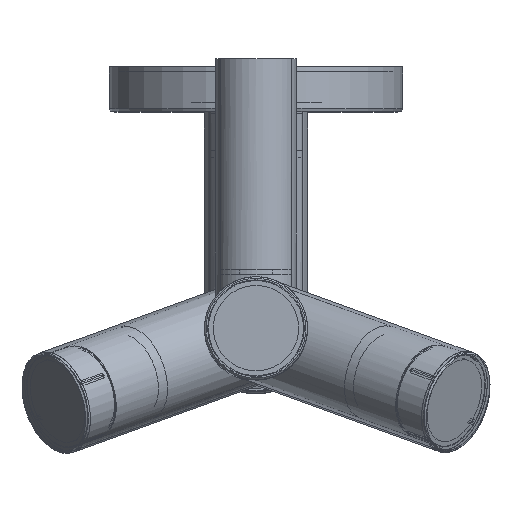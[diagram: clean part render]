
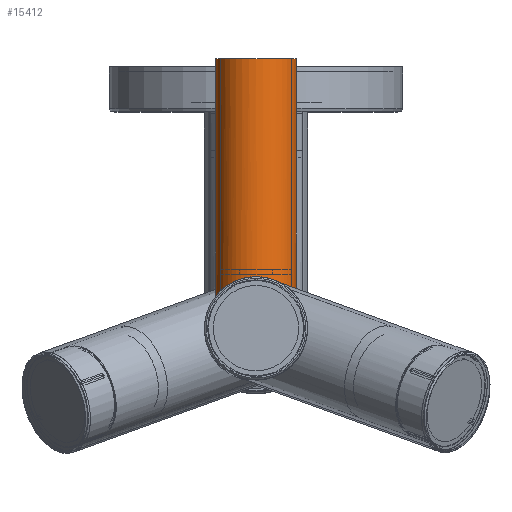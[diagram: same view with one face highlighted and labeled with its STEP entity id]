
A CAD part, top view. The second image highlights one B-rep face of the part: STEP entity #15412.
In plain terms, the highlighted cylindrical face has radius 12.5 mm (diameter 25 mm), a full revolution.
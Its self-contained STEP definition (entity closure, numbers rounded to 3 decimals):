
#1357=CIRCLE('',#16970,12.5);
#7214=ORIENTED_EDGE('',*,*,#9374,.F.);
#7215=ORIENTED_EDGE('',*,*,#9375,.T.);
#7216=ORIENTED_EDGE('',*,*,#9376,.T.);
#9374=EDGE_CURVE('',#10757,#10757,#11290,.T.);
#9375=EDGE_CURVE('',#10758,#10758,#11291,.T.);
#9376=EDGE_CURVE('',#10759,#10759,#1357,.T.);
#10757=VERTEX_POINT('',#28344);
#10758=VERTEX_POINT('',#28374);
#10759=VERTEX_POINT('',#28376);
#11290=B_SPLINE_CURVE_WITH_KNOTS('',3,(#28333,#28334,#28335,#28336,#28337,
#28338,#28339,#28340,#28341,#28342,#28343),.UNSPECIFIED.,.T.,.F.,(1,1,1,
1,1,1,1,1,1,1,1,1,1,1,1),(-0.005,-0.003,-0.002,
0.,0.002,0.003,0.005,
0.006,0.008,0.01,0.011,
0.013,0.015,0.016,0.018),
 .UNSPECIFIED.);
#11291=B_SPLINE_CURVE_WITH_KNOTS('',3,(#28345,#28346,#28347,#28348,#28349,
#28350,#28351,#28352,#28353,#28354,#28355,#28356,#28357,#28358,#28359,#28360,
#28361,#28362,#28363,#28364,#28365,#28366,#28367,#28368,#28369,#28370,#28371,
#28372,#28373),.UNSPECIFIED.,.T.,.F.,(1,1,1,1,1,1,1,1,1,1,1,1,1,1,1,1,1,
1,1,1,1,1,1,1,1,1,1,1,1,1,1,1,1),(-0.008,-0.005,
-0.003,0.,0.003,0.005,0.008,
0.01,0.015,0.018,0.021,
0.026,0.031,0.033,0.036,
0.039,0.041,0.044,0.046,
0.049,0.051,0.057,0.059,
0.062,0.067,0.072,0.075,
0.077,0.08,0.082,0.085,
0.087,0.09),.UNSPECIFIED.);
#12283=EDGE_LOOP('',(#7214));
#12284=EDGE_LOOP('',(#7215));
#12285=EDGE_LOOP('',(#7216));
#13343=FACE_BOUND('',#12283,.T.);
#13344=FACE_BOUND('',#12284,.T.);
#13345=FACE_BOUND('',#12285,.T.);
#13738=CYLINDRICAL_SURFACE('',#16969,12.5);
#15412=ADVANCED_FACE('',(#13343,#13344,#13345),#13738,.T.);
#16969=AXIS2_PLACEMENT_3D('',#28332,#20836,#20837);
#16970=AXIS2_PLACEMENT_3D('',#28375,#20838,#20839);
#20836=DIRECTION('',(-1.,0.,0.));
#20837=DIRECTION('',(0.,0.,1.));
#20838=DIRECTION('',(-1.,0.,0.));
#20839=DIRECTION('',(0.,1.,0.));
#28332=CARTESIAN_POINT('',(37.,0.,0.));
#28333=CARTESIAN_POINT('',(26.379,1.618,-12.415));
#28334=CARTESIAN_POINT('',(28.,2.291,-12.285));
#28335=CARTESIAN_POINT('',(29.62,1.619,-12.415));
#28336=CARTESIAN_POINT('',(30.29,0.002,-12.543));
#28337=CARTESIAN_POINT('',(29.62,-1.62,-12.415));
#28338=CARTESIAN_POINT('',(28.001,-2.29,-12.285));
#28339=CARTESIAN_POINT('',(26.382,-1.621,-12.414));
#28340=CARTESIAN_POINT('',(25.709,-0.002,-12.543));
#28341=CARTESIAN_POINT('',(26.379,1.618,-12.415));
#28342=CARTESIAN_POINT('',(28.,2.291,-12.285));
#28343=CARTESIAN_POINT('',(29.62,1.619,-12.415));
#28344=CARTESIAN_POINT('',(28.,2.067,-12.328));
#28345=CARTESIAN_POINT('',(-36.765,-12.317,2.586));
#28346=CARTESIAN_POINT('',(-37.117,-12.591,-0.002));
#28347=CARTESIAN_POINT('',(-36.767,-12.319,-2.576));
#28348=CARTESIAN_POINT('',(-35.906,-11.569,-4.933));
#28349=CARTESIAN_POINT('',(-34.823,-10.441,-7.004));
#28350=CARTESIAN_POINT('',(-33.307,-8.475,-9.417));
#28351=CARTESIAN_POINT('',(-31.932,-5.828,-11.276));
#28352=CARTESIAN_POINT('',(-31.131,-2.601,-12.317));
#28353=CARTESIAN_POINT('',(-30.842,0.865,-12.684));
#28354=CARTESIAN_POINT('',(-31.574,5.147,-11.76));
#28355=CARTESIAN_POINT('',(-33.31,8.479,-9.412));
#28356=CARTESIAN_POINT('',(-34.82,10.437,-7.01));
#28357=CARTESIAN_POINT('',(-35.91,11.572,-4.926));
#28358=CARTESIAN_POINT('',(-36.769,12.32,-2.574));
#28359=CARTESIAN_POINT('',(-37.117,12.591,0.018));
#28360=CARTESIAN_POINT('',(-36.764,12.316,2.588));
#28361=CARTESIAN_POINT('',(-35.902,11.565,4.943));
#28362=CARTESIAN_POINT('',(-34.819,10.436,7.01));
#28363=CARTESIAN_POINT('',(-33.304,8.47,9.421));
#28364=CARTESIAN_POINT('',(-31.931,5.825,11.278));
#28365=CARTESIAN_POINT('',(-31.131,2.599,12.317));
#28366=CARTESIAN_POINT('',(-30.843,-0.864,12.684));
#28367=CARTESIAN_POINT('',(-31.573,-5.144,11.761));
#28368=CARTESIAN_POINT('',(-33.307,-8.474,9.416));
#28369=CARTESIAN_POINT('',(-34.816,-10.432,7.016));
#28370=CARTESIAN_POINT('',(-35.905,-11.568,4.935));
#28371=CARTESIAN_POINT('',(-36.765,-12.317,2.586));
#28372=CARTESIAN_POINT('',(-37.117,-12.591,-0.002));
#28373=CARTESIAN_POINT('',(-36.767,-12.319,-2.576));
#28374=CARTESIAN_POINT('',(-37.,-12.5,0.));
#28375=CARTESIAN_POINT('',(37.,0.,0.));
#28376=CARTESIAN_POINT('',(37.,12.5,0.));
